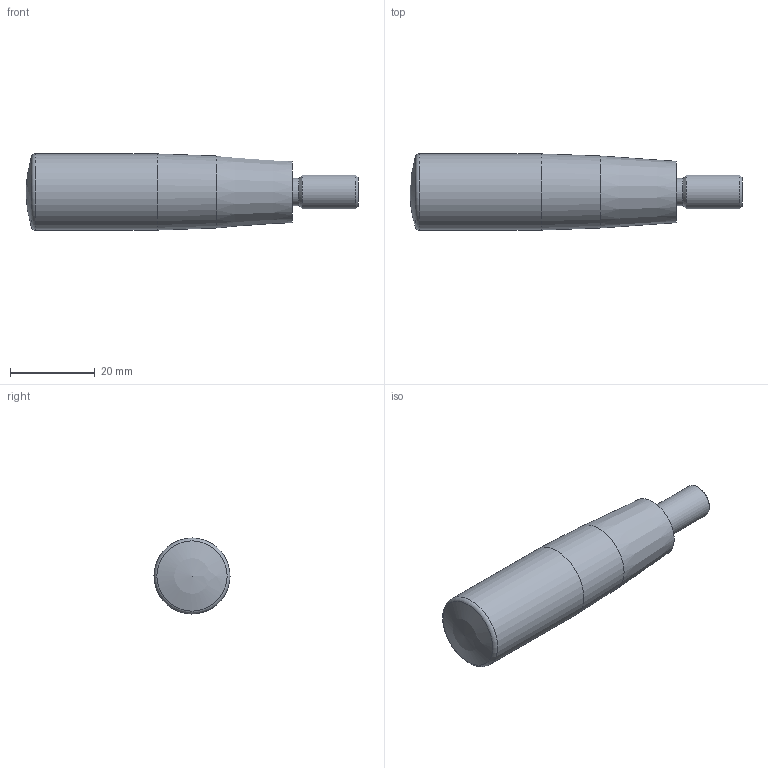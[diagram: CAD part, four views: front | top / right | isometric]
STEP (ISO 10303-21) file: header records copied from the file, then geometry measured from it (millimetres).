
FILE_DESCRIPTION(('STEP AP214'), '1');
FILE_NAME('Ðóêîÿòêà âðàùàþùàÿñÿ 100105-63 Ì8', '', ('UNSPECIFIED'), ('UNSPECIFIED'), 'ASCON STEP Converter 1.6', 'ASCON Math Kernel', '');
FILE_SCHEMA(('AUTOMOTIVE_DESIGN { 1 0 10303 214 3 1 1}'));
Length unit declared in the file: millimetre
Bounding box: 78.5 x 18 x 18 mm (x, y, z)
Volume: 15330.3 mm3; surface area: 4209.5 mm2
Topology: 1 solids, 1 shells, 24 faces, 52 edges, 30 vertices
Faces by surface type: plane 14, cone 4, cylinder 3, torus 2, sphere 1
Full cylindrical faces by diameter (mm): 6.4 x1, 8 x1, 18 x1
Entity records: 808 total; most frequent: DIRECTION 106, CARTESIAN_POINT 93, ORIENTED_EDGE 80, AXIS2_PLACEMENT_3D 41, EDGE_CURVE 40, EDGE_LOOP 34, VERTEX_POINT 28, COLOUR_RGB 25
